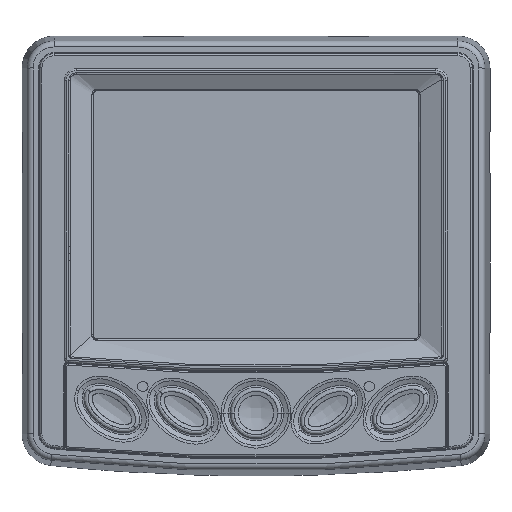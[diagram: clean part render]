
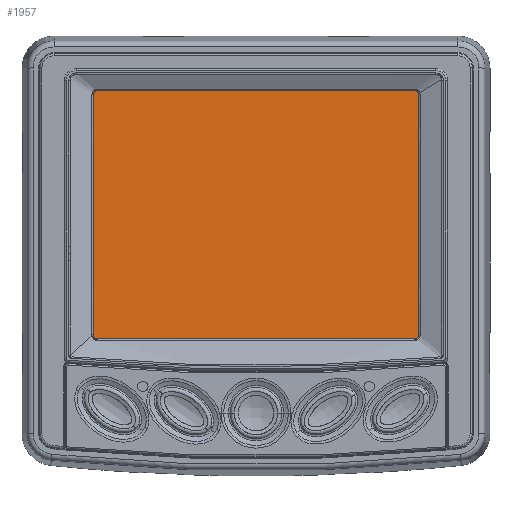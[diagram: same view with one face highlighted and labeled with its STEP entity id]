
A CAD part, top view. The second image highlights one B-rep face of the part: STEP entity #1957.
In plain terms, the highlighted planar face has unit normal (0, 0, 1).
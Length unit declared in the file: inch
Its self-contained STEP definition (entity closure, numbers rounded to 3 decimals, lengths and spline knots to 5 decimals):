
#1009 = CIRCLE ( 'NONE', #1021, 0.07687 ) ;
#1017 = AXIS2_PLACEMENT_3D ( 'NONE', #14152, #14153, #14154 ) ;
#1019 = VECTOR ( 'NONE', #14149, 39.37008 ) ;
#1021 = AXIS2_PLACEMENT_3D ( 'NONE', #14139, #14140, #14141 ) ;
#1023 = CIRCLE ( 'NONE', #1017, 0.07687 ) ;
#1025 = VECTOR ( 'NONE', #14144, 39.37008 ) ;
#1027 = AXIS2_PLACEMENT_3D ( 'NONE', #14161, #14162, #14163 ) ;
#1031 = CIRCLE ( 'NONE', #1027, 0.07687 ) ;
#1033 = VECTOR ( 'NONE', #14156, 39.37008 ) ;
#1037 = AXIS2_PLACEMENT_3D ( 'NONE', #14170, #14171, #14172 ) ;
#1039 = CIRCLE ( 'NONE', #1037, 0.07687 ) ;
#1041 = VECTOR ( 'NONE', #14165, 39.37008 ) ;
#1957 = ADVANCED_FACE ( 'NONE', ( #16865 ), #16869, .T. ) ;
#6712 = AXIS2_PLACEMENT_3D ( 'NONE', #16861, #16870, #16871 ) ;
#11255 = VERTEX_POINT ( 'NONE', #29756 ) ;
#11257 = VERTEX_POINT ( 'NONE', #29762 ) ;
#11259 = VERTEX_POINT ( 'NONE', #29758 ) ;
#11269 = VERTEX_POINT ( 'NONE', #29800 ) ;
#11271 = VERTEX_POINT ( 'NONE', #29808 ) ;
#11276 = VERTEX_POINT ( 'NONE', #29881 ) ;
#11278 = VERTEX_POINT ( 'NONE', #30035 ) ;
#11287 = VERTEX_POINT ( 'NONE', #30058 ) ;
#14137 = LINE ( 'NONE', #14148, #1019 ) ;
#14138 = LINE ( 'NONE', #14143, #1025 ) ;
#14139 = CARTESIAN_POINT ( 'NONE',  ( 1.55766, -0.3814, 0.74803 ) ) ;
#14140 = DIRECTION ( 'NONE',  ( 0., 0., 1. ) ) ;
#14141 = DIRECTION ( 'NONE',  ( 1., 0., 0. ) ) ;
#14143 = CARTESIAN_POINT ( 'NONE',  ( 1.69939, -0.45827, 0.74803 ) ) ;
#14144 = DIRECTION ( 'NONE',  ( 1., 0., 0. ) ) ;
#14148 = CARTESIAN_POINT ( 'NONE',  ( 1.63453, 1.97785, 0.74803 ) ) ;
#14149 = DIRECTION ( 'NONE',  ( 0., 1., 0. ) ) ;
#14150 = LINE ( 'NONE', #14155, #1033 ) ;
#14152 = CARTESIAN_POINT ( 'NONE',  ( 1.55766, 1.97785, 0.74803 ) ) ;
#14153 = DIRECTION ( 'NONE',  ( 0., 0., 1. ) ) ;
#14154 = DIRECTION ( 'NONE',  ( 1., 0., 0. ) ) ;
#14155 = CARTESIAN_POINT ( 'NONE',  ( 1.69939, 2.05473, 0.74803 ) ) ;
#14156 = DIRECTION ( 'NONE',  ( -1., 0., 0. ) ) ;
#14157 = CARTESIAN_POINT ( 'NONE',  ( -1.63453, -0.52313, 0.74803 ) ) ;
#14160 = LINE ( 'NONE', #14157, #1041 ) ;
#14161 = CARTESIAN_POINT ( 'NONE',  ( -1.55766, 1.97785, 0.74803 ) ) ;
#14162 = DIRECTION ( 'NONE',  ( 0., 0., 1. ) ) ;
#14163 = DIRECTION ( 'NONE',  ( 1., 0., 0. ) ) ;
#14165 = DIRECTION ( 'NONE',  ( 0., -1., 0. ) ) ;
#14170 = CARTESIAN_POINT ( 'NONE',  ( -1.55766, -0.3814, 0.74803 ) ) ;
#14171 = DIRECTION ( 'NONE',  ( 0., 0., 1. ) ) ;
#14172 = DIRECTION ( 'NONE',  ( 1., 0., 0. ) ) ;
#16861 = CARTESIAN_POINT ( 'NONE',  ( 1.69939, -0.52313, 0.74803 ) ) ;
#16865 = FACE_OUTER_BOUND ( 'NONE', #38041, .T. ) ;
#16869 = PLANE ( 'NONE',  #6712 ) ;
#16870 = DIRECTION ( 'NONE',  ( 0., 0., 1. ) ) ;
#16871 = DIRECTION ( 'NONE',  ( 1., 0., 0. ) ) ;
#25465 = EDGE_CURVE ( 'NONE', #11278, #11276, #1009, .T. ) ;
#25467 = EDGE_CURVE ( 'NONE', #11287, #11278, #14138, .T. ) ;
#25469 = EDGE_CURVE ( 'NONE', #11276, #11271, #14137, .T. ) ;
#25472 = EDGE_CURVE ( 'NONE', #11271, #11269, #1023, .T. ) ;
#25474 = EDGE_CURVE ( 'NONE', #11269, #11257, #14150, .T. ) ;
#25476 = EDGE_CURVE ( 'NONE', #11257, #11259, #1031, .T. ) ;
#25479 = EDGE_CURVE ( 'NONE', #11259, #11255, #14160, .T. ) ;
#25481 = EDGE_CURVE ( 'NONE', #11255, #11287, #1039, .T. ) ;
#29756 = CARTESIAN_POINT ( 'NONE',  ( -1.63453, -0.3814, 0.74803 ) ) ;
#29758 = CARTESIAN_POINT ( 'NONE',  ( -1.63453, 1.97785, 0.74803 ) ) ;
#29762 = CARTESIAN_POINT ( 'NONE',  ( -1.55766, 2.05473, 0.74803 ) ) ;
#29800 = CARTESIAN_POINT ( 'NONE',  ( 1.55766, 2.05473, 0.74803 ) ) ;
#29808 = CARTESIAN_POINT ( 'NONE',  ( 1.63453, 1.97785, 0.74803 ) ) ;
#29881 = CARTESIAN_POINT ( 'NONE',  ( 1.63453, -0.3814, 0.74803 ) ) ;
#30035 = CARTESIAN_POINT ( 'NONE',  ( 1.55766, -0.45827, 0.74803 ) ) ;
#30058 = CARTESIAN_POINT ( 'NONE',  ( -1.55766, -0.45827, 0.74803 ) ) ;
#31780 = ORIENTED_EDGE ( 'NONE', *, *, #25481, .T. ) ;
#31781 = ORIENTED_EDGE ( 'NONE', *, *, #25479, .T. ) ;
#31788 = ORIENTED_EDGE ( 'NONE', *, *, #25476, .T. ) ;
#31789 = ORIENTED_EDGE ( 'NONE', *, *, #25474, .T. ) ;
#31790 = ORIENTED_EDGE ( 'NONE', *, *, #25472, .T. ) ;
#31791 = ORIENTED_EDGE ( 'NONE', *, *, #25469, .T. ) ;
#31792 = ORIENTED_EDGE ( 'NONE', *, *, #25465, .T. ) ;
#31793 = ORIENTED_EDGE ( 'NONE', *, *, #25467, .T. ) ;
#38041 = EDGE_LOOP ( 'NONE', ( #31793, #31792, #31791, #31790, #31789, #31788, #31781, #31780 ) ) ;
